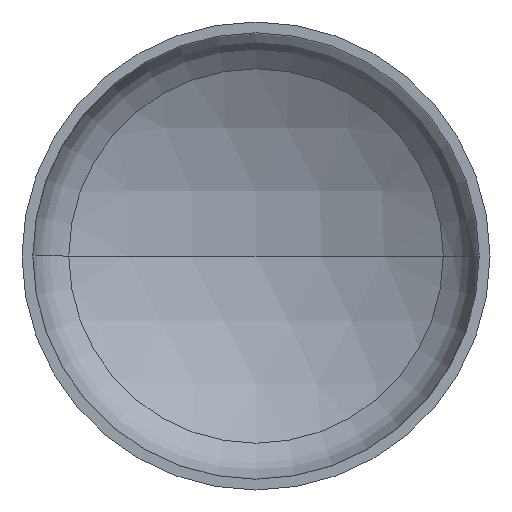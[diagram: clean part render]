
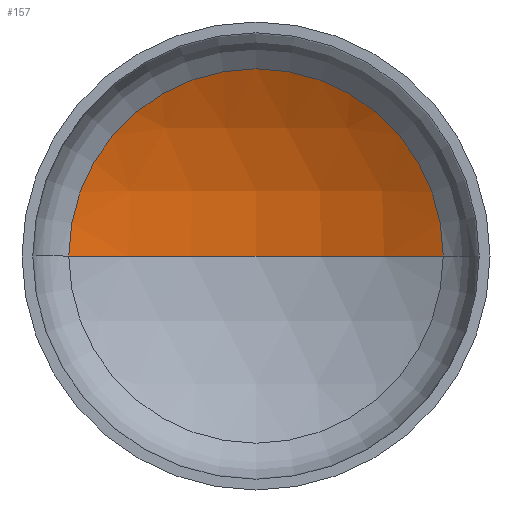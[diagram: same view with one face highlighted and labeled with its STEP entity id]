
A CAD part, front view. The second image highlights one B-rep face of the part: STEP entity #157.
In plain terms, the highlighted spherical face has radius 2080 mm.
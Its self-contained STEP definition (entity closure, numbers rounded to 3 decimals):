
#12 = AXIS2_PLACEMENT_3D ( 'NONE', #41, #248, #108 ) ;
#22 = AXIS2_PLACEMENT_3D ( 'NONE', #198, #158, #259 ) ;
#32 = AXIS2_PLACEMENT_3D ( 'NONE', #274, #45, #295 ) ;
#34 = CIRCLE ( 'NONE', #38, 1040. ) ;
#38 = AXIS2_PLACEMENT_3D ( 'NONE', #181, #185, #163 ) ;
#41 = CARTESIAN_POINT ( 'NONE',  ( 0., -1334.923, 0. ) ) ;
#45 = DIRECTION ( 'NONE',  ( 0., 0., -1. ) ) ;
#64 = EDGE_LOOP ( 'NONE', ( #225, #191, #113 ) ) ;
#78 = EDGE_CURVE ( 'NONE', #369, #196, #34, .T. ) ;
#79 = EDGE_CURVE ( 'NONE', #197, #369, #160, .T. ) ;
#108 = DIRECTION ( 'NONE',  ( 1., 0., 0. ) ) ;
#113 = ORIENTED_EDGE ( 'NONE', *, *, #78, .T. ) ;
#136 = SPHERICAL_SURFACE ( 'NONE', #22, 2080. ) ;
#157 = ADVANCED_FACE ( 'NONE', ( #239 ), #136, .F. ) ;
#158 = DIRECTION ( 'NONE',  ( 0., 0., -1. ) ) ;
#160 = CIRCLE ( 'NONE', #32, 2080. ) ;
#163 = DIRECTION ( 'NONE',  ( 1., 0., 0. ) ) ;
#181 = CARTESIAN_POINT ( 'NONE',  ( 0., 466.41, 0. ) ) ;
#185 = DIRECTION ( 'NONE',  ( 0., -1., 0. ) ) ;
#191 = ORIENTED_EDGE ( 'NONE', *, *, #79, .T. ) ;
#194 = CARTESIAN_POINT ( 'NONE',  ( -1040., 466.41, 0. ) ) ;
#196 = VERTEX_POINT ( 'NONE', #194 ) ;
#197 = VERTEX_POINT ( 'NONE', #258 ) ;
#198 = CARTESIAN_POINT ( 'NONE',  ( 0., -1334.923, 0. ) ) ;
#208 = CIRCLE ( 'NONE', #12, 2080. ) ;
#225 = ORIENTED_EDGE ( 'NONE', *, *, #352, .F. ) ;
#239 = FACE_OUTER_BOUND ( 'NONE', #64, .T. ) ;
#248 = DIRECTION ( 'NONE',  ( 0., 0., 1. ) ) ;
#255 = CARTESIAN_POINT ( 'NONE',  ( 1040., 466.41, 0. ) ) ;
#258 = CARTESIAN_POINT ( 'NONE',  ( 0., 745.077, 0. ) ) ;
#259 = DIRECTION ( 'NONE',  ( -1., 0., 0. ) ) ;
#274 = CARTESIAN_POINT ( 'NONE',  ( 0., -1334.923, 0. ) ) ;
#295 = DIRECTION ( 'NONE',  ( -1., 0., 0. ) ) ;
#352 = EDGE_CURVE ( 'NONE', #197, #196, #208, .T. ) ;
#369 = VERTEX_POINT ( 'NONE', #255 ) ;
